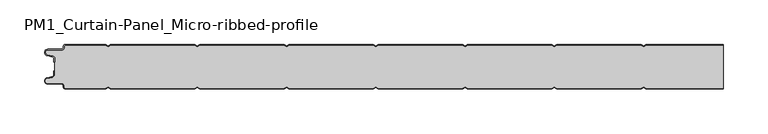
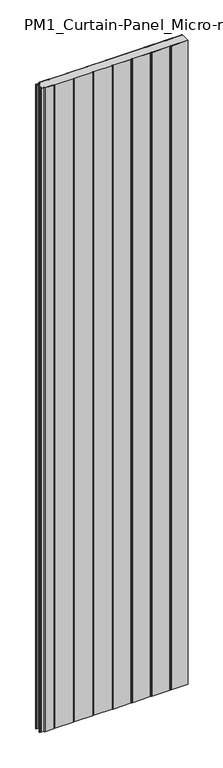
"""IFC4 building model written with IfcOpenShell, lengths in millimetres: plate geometry, PM1_Curtain-Panel_Micro-ribbed-profile : ACH_PM1_Acoustic-Sectioning-Panel_50M."""

import ifcopenshell
import ifcopenshell.guid

model = None  # the IFC model being written
_history = None  # IfcOwnerHistory: only IFC2X3 demands one
_inside = {}  # id of a spatial element -> (the spatial element, [elements in it])
_under = {}  # id of a project, library or spatial element -> (it, [spatial elements below it])
_declared = {}  # id of a project -> (the project, [libraries it declares])
_typed = {}  # id of a type object -> (the type object, [elements of that type])
_made_of = {}  # id of a material, layer set ... -> (it, [elements and type objects made of it])


def new_model(schema):
    """Start an empty IFC model of exactly this schema.

    Asked for "IFC4X3", IfcOpenShell would pick the latest addendum, in which some entities
    have other attributes; the version numbers below select the first issue.
    IFC2X3 requires an IfcOwnerHistory on every rooted entity: one is made here for all.
    """
    global model, _history
    if schema == "IFC4X3":
        model = ifcopenshell.file(schema_version=(4, 3, 0, 0))
    else:
        model = ifcopenshell.file(schema=schema)
    _inside.clear()
    _under.clear()
    _declared.clear()
    _typed.clear()
    _made_of.clear()
    _history = None
    if model.schema == "IFC2X3":
        org = make("IfcOrganization", Name="unknown")
        user = make(
            "IfcPersonAndOrganization",
            ThePerson=make("IfcPerson", FamilyName="unknown"),
            TheOrganization=org,
        )
        app = make(
            "IfcApplication",
            ApplicationDeveloper=org,
            Version="unknown",
            ApplicationFullName="unknown",
            ApplicationIdentifier="unknown",
        )
        _history = make(
            "IfcOwnerHistory",
            OwningUser=user,
            OwningApplication=app,
            ChangeAction="ADDED",
            CreationDate=0,
        )
    return model


def make(cls, **values):
    """One entity of the class cls with the attributes given. An attribute that is None is left unset."""
    return model.create_entity(
        cls, **{name: value for name, value in values.items() if value is not None}
    )


def rooted(cls, **values):
    """An entity with a GlobalId (a new one), such as an element, a storey or a relation."""
    return make(cls, GlobalId=ifcopenshell.guid.new(), OwnerHistory=_history, **values)


def si_unit(unit_type, name, prefix=None):
    """IfcSIUnit, for example si_unit("LENGTHUNIT", "METRE", prefix="MILLI")."""
    return make("IfcSIUnit", UnitType=unit_type, Prefix=prefix, Name=name)


def assignment(units):
    """IfcUnitAssignment: the units of a project."""
    return None if units is None else make("IfcUnitAssignment", Units=units)


def point(xyz):
    """IfcCartesianPoint."""
    return None if xyz is None else make("IfcCartesianPoint", Coordinates=xyz)


def direction(xyz):
    """IfcDirection."""
    return None if xyz is None else make("IfcDirection", DirectionRatios=xyz)


def frame(location, z_axis=None, x_axis=None):
    """IfcAxis2Placement3D, a coordinate frame: its origin and axes. An axis left out is left unset."""
    return make(
        "IfcAxis2Placement3D",
        Location=point(location),
        Axis=direction(z_axis),
        RefDirection=direction(x_axis),
    )


def frame_2d(location, x_axis=None):
    """IfcAxis2Placement2D, a coordinate frame in the plane: its origin and x axis."""
    return make(
        "IfcAxis2Placement2D", Location=point(location), RefDirection=direction(x_axis)
    )


def origin():
    """The frame at (0, 0, 0) with its axes left unset."""
    return frame((0.0, 0.0, 0.0))


def origin_with_axes():
    """The frame at (0, 0, 0) with the z axis (0, 0, 1) and the x axis (1, 0, 0) written out."""
    return frame((0.0, 0.0, 0.0), z_axis=(0.0, 0.0, 1.0), x_axis=(1.0, 0.0, 0.0))


def place(relative_to, where):
    """IfcLocalPlacement: puts the frame where relative to a parent placement (None: the world)."""
    return make(
        "IfcLocalPlacement", PlacementRelTo=relative_to, RelativePlacement=where
    )


def context(
    kind, dimensions, precision=None, world=None, true_north=None, identifier=None
):
    """IfcGeometricRepresentationContext, for example the 3D "Model" context."""
    return make(
        "IfcGeometricRepresentationContext",
        ContextIdentifier=identifier,
        ContextType=kind,
        CoordinateSpaceDimension=dimensions,
        Precision=precision,
        WorldCoordinateSystem=world,
        TrueNorth=true_north,
    )


def project(units=None, contexts=None):
    """IfcProject with its units and contexts."""
    return rooted(
        "IfcProject",
        Name="project",
        RepresentationContexts=contexts,
        UnitsInContext=assignment(units),
    )


def spatial(cls, under=None, at=None, **own):
    """A site, building, storey or space (cls), placed at a placement, below another one or the project."""
    s = rooted(cls, ObjectPlacement=at, **own)
    if under is not None:
        _under.setdefault(under.id(), (under, []))[1].append(s)
    return s


def polyline(points):
    """IfcPolyline through the points."""
    return make("IfcPolyline", Points=[point(p) for p in points])


def circle_curve(where, radius):
    """IfcCircle in the frame where."""
    return make("IfcCircle", Position=where, Radius=radius)


def trimmed(basis, trim1, trim2, sense, master):
    """IfcTrimmedCurve: the piece of a basis curve between two trims."""
    return make(
        "IfcTrimmedCurve",
        BasisCurve=basis,
        Trim1=trim1,
        Trim2=trim2,
        SenseAgreement=sense,
        MasterRepresentation=master,
    )


def segment(curve, same_sense, transition):
    """IfcCompositeCurveSegment."""
    return make(
        "IfcCompositeCurveSegment",
        Transition=transition,
        SameSense=same_sense,
        ParentCurve=curve,
    )


def composite_curve(segments, self_intersect=None):
    """IfcCompositeCurve: segments joined end to end."""
    return make("IfcCompositeCurve", Segments=segments, SelfIntersect=self_intersect)


def outline(outer, holes=None, kind="AREA"):
    """IfcArbitraryClosedProfileDef: a profile drawn as a closed curve; with holes, ...WithVoids."""
    if holes is None:
        return make("IfcArbitraryClosedProfileDef", ProfileType=kind, OuterCurve=outer)
    return make(
        "IfcArbitraryProfileDefWithVoids",
        ProfileType=kind,
        OuterCurve=outer,
        InnerCurves=holes,
    )


def extrude(swept, where, along, depth):
    """IfcExtrudedAreaSolid: the profile swept, set in the frame where, extruded along a direction by depth."""
    return make(
        "IfcExtrudedAreaSolid",
        SweptArea=swept,
        Position=where,
        ExtrudedDirection=direction(along),
        Depth=depth,
    )


def shape(context_of_items, identifier, shape_type, items):
    """IfcShapeRepresentation: the items that make up one representation, for example the "Body"."""
    return make(
        "IfcShapeRepresentation",
        ContextOfItems=context_of_items,
        RepresentationIdentifier=identifier,
        RepresentationType=shape_type,
        Items=items,
    )


def source(mapping_origin, context_of_items, identifier, shape_type, items):
    """IfcRepresentationMap: a shape defined once, which mapped items show again and again."""
    return make(
        "IfcRepresentationMap",
        MappingOrigin=mapping_origin,
        MappedRepresentation=shape(context_of_items, identifier, shape_type, items),
    )


def transform(
    local_origin,
    x_axis=None,
    y_axis=None,
    z_axis=None,
    scale=None,
    scale2=None,
    scale3=None,
    uniform=True,
):
    """IfcCartesianTransformationOperator3D, or its non-uniform kind. x_axis, y_axis, z_axis: its Axis1, 2, 3."""
    if uniform:
        return make(
            "IfcCartesianTransformationOperator3D",
            Axis1=direction(x_axis),
            Axis2=direction(y_axis),
            LocalOrigin=point(local_origin),
            Scale=scale,
            Axis3=direction(z_axis),
        )
    return make(
        "IfcCartesianTransformationOperator3DnonUniform",
        Axis1=direction(x_axis),
        Axis2=direction(y_axis),
        LocalOrigin=point(local_origin),
        Scale=scale,
        Axis3=direction(z_axis),
        Scale2=scale2,
        Scale3=scale3,
    )


def mapped(mapping_source, mapping_target):
    """IfcMappedItem: shows the shape of a source again, moved by a transform."""
    return make(
        "IfcMappedItem", MappingSource=mapping_source, MappingTarget=mapping_target
    )


def made_of(thing, what):
    """Note that an element or type object is made of a material, layer set ...; save() writes the relation."""
    if what is not None:
        _made_of.setdefault(what.id(), (what, []))[1].append(thing)
    return thing


def element(
    cls,
    number,
    at=None,
    inside=None,
    cuts=None,
    type_object=None,
    material=None,
    context=None,
    identifier="Body",
    shape_type=None,
    held_by="IfcProductDefinitionShape",
    body=None,
    shapes=None,
    **own,
):
    """One element of the class cls, such as IfcWall. Its Tag is "e" and its number.

    at: its placement. inside: the storey or other place that contains it. cuts: it is an
    opening in that element (IfcRelVoidsElement). A single representation is given by context,
    identifier, shape_type and body (its items); several are given by shapes. held_by: the class
    of the entity that holds the representations. save() writes the other relations.
    """
    e = rooted(cls, Tag="e%d" % number, ObjectPlacement=at, **own)
    if body is not None:
        shapes = [shape(context, identifier, shape_type, body)]
    if shapes is not None:
        e.Representation = make(held_by, Representations=shapes)
    if inside is not None:
        _inside.setdefault(inside.id(), (inside, []))[1].append(e)
    if cuts is not None:
        rooted(
            "IfcRelVoidsElement", RelatingBuildingElement=cuts, RelatedOpeningElement=e
        )
    if type_object is not None:
        _typed.setdefault(type_object.id(), (type_object, []))[1].append(e)
    return made_of(e, material)


def aggregate(whole, parts):
    """IfcRelAggregates: a whole, such as a stair, and the parts it consists of."""
    return rooted("IfcRelAggregates", RelatingObject=whole, RelatedObjects=parts)


def save(model, path):
    """Write the relations noted so far, then the file.

    IfcRelAggregates (storeys below a building ...), IfcRelContainedInSpatialStructure (elements
    in a storey), IfcRelDefinesByType, IfcRelAssociatesMaterial and IfcRelDeclares: one each for
    every whole, place, type object, material and project.
    """
    for whole, parts in _under.values():
        aggregate(whole, parts)
    for where, things in _inside.values():
        rooted(
            "IfcRelContainedInSpatialStructure",
            RelatedElements=things,
            RelatingStructure=where,
        )
    for kind, things in _typed.values():
        rooted("IfcRelDefinesByType", RelatedObjects=things, RelatingType=kind)
    for what, things in _made_of.values():
        rooted("IfcRelAssociatesMaterial", RelatedObjects=things, RelatingMaterial=what)
    for by, libraries in _declared.values():
        rooted("IfcRelDeclares", RelatingContext=by, RelatedDefinitions=libraries)
    model.write(path)


def pm1_curtain_panel_micro_ribbed_profile_fbef5924(model_context):
    return source(origin(), model_context, "Body", "SweptSolid", [
        extrude(outline(composite_curve([segment(trimmed(circle_curve(frame_2d((-377.0119739, -15.878557)), 2.0), [point((-375.0119739, -15.878557))], [point((-376.5620718, -13.9298169))], True, "CARTESIAN"), True, "CONTINUOUS"), segment(polyline([(-376.5620718, -13.9298169), (-382.7217978, -12.507732)]), True, "CONTINUOUS"), segment(trimmed(circle_curve(frame_2d((-381.9119739, -9.0)), 3.6), [point((-382.7217978, -12.507732))], [point((-381.9119739, -5.4))], False, "CARTESIAN"), True, "CONTINUOUS"), segment(polyline([(-381.9119739, -5.4), (-366.4119739, -5.4)]), True, "CONTINUOUS"), segment(trimmed(circle_curve(frame_2d((-366.4119739, -3.4)), 2.0), [point((-366.4119739, -5.4))], [point((-364.4119739, -3.4))], True, "CARTESIAN"), True, "CONTINUOUS"), segment(polyline([(-364.4119739, -3.4), (-364.4119739, -2.0)]), True, "CONTINUOUS"), segment(trimmed(circle_curve(frame_2d((-362.4119739, -2.0)), 2.0), [point((-364.4119739, -2.0))], [point((-362.4119739, 0.0))], False, "CARTESIAN"), True, "CONTINUOUS"), segment(polyline([(-362.4119739, 0.0), (-317.1119734, 0.0), (-314.4119739, -1.5588455), (-311.7119745, 0.0), (-217.1119734, 0.0), (-214.4119739, -1.5588455), (-211.7119745, 0.0), (-117.1119734, 0.0), (-114.4119739, -1.5588455), (-111.7119745, 0.0), (-17.1119734, 0.0), (-14.4119739, -1.5588455), (-11.7119745, 0.0), (82.8880266, 0.0), (85.5880261, -1.5588455), (88.2880255, 0.0), (182.8880266, 0.0), (185.5880261, -1.5588455), (188.2880255, 0.0), (282.8880266, 0.0), (285.5880261, -1.5588455), (288.2880255, 0.0), (375.0119739, 0.0), (375.0119739, -0.8), (288.5023849, -0.8), (285.5880261, -2.482606), (282.6736672, -0.8), (188.5023849, -0.8), (185.5880261, -2.482606), (182.6736672, -0.8), (88.5023849, -0.8), (85.5880261, -2.482606), (82.6736672, -0.8), (-11.4976151, -0.8), (-14.4119739, -2.482606), (-17.3263328, -0.8), (-111.4976151, -0.8), (-114.4119739, -2.482606), (-117.3263328, -0.8), (-211.4976151, -0.8), (-214.4119739, -2.482606), (-217.3263328, -0.8), (-311.4976151, -0.8), (-314.4119739, -2.482606), (-317.3263328, -0.8), (-362.4119739, -0.8)]), True, "CONTINUOUS"), segment(trimmed(circle_curve(frame_2d((-362.4119739, -2.0)), 1.2), [point((-362.4119739, -0.8))], [point((-363.6119739, -2.0))], True, "CARTESIAN"), True, "CONTINUOUS"), segment(polyline([(-363.6119739, -2.0), (-363.6119739, -3.4)]), True, "CONTINUOUS"), segment(trimmed(circle_curve(frame_2d((-366.4119739, -3.4)), 2.8), [point((-363.6119739, -3.4))], [point((-366.4119739, -6.2))], False, "CARTESIAN"), True, "CONTINUOUS"), segment(polyline([(-366.4119739, -6.2), (-381.9119739, -6.2)]), True, "CONTINUOUS"), segment(trimmed(circle_curve(frame_2d((-381.9119739, -9.0)), 2.8), [point((-381.9119739, -6.2))], [point((-382.541837, -11.7282362))], True, "CARTESIAN"), True, "CONTINUOUS"), segment(polyline([(-382.541837, -11.7282362), (-376.3821109, -13.150321)]), True, "CONTINUOUS"), segment(trimmed(circle_curve(frame_2d((-377.0119739, -15.878557)), 2.8), [point((-376.3821109, -13.150321))], [point((-374.2119739, -15.878557))], False, "CARTESIAN"), True, "CONTINUOUS"), segment(polyline([(-374.2119739, -15.878557), (-374.2119739, -20.0), (-375.0119739, -20.0), (-375.0119739, -15.878557)]), True, "CONTINUOUS")], self_intersect=False)), origin_with_axes(), (0.0, 0.0, 1.0), 3500.0),
        extrude(outline(composite_curve([segment(polyline([(-374.2119739, -34.1214426), (-374.2119739, -15.8785573)]), True, "CONTINUOUS"), segment(trimmed(circle_curve(frame_2d((-377.0119739, -15.8785573)), 2.8), [point((-374.2119739, -15.8785573))], [point((-376.3821109, -13.1503212))], True, "CARTESIAN"), True, "CONTINUOUS"), segment(polyline([(-376.3821109, -13.1503212), (-382.541837, -11.7282362)]), True, "CONTINUOUS"), segment(trimmed(circle_curve(frame_2d((-381.911974, -9.0)), 2.8), [point((-382.541837, -11.7282362))], [point((-381.911974, -6.2))], False, "CARTESIAN"), True, "CONTINUOUS"), segment(polyline([(-381.911974, -6.2), (-366.411974, -6.2)]), True, "CONTINUOUS"), segment(trimmed(circle_curve(frame_2d((-366.411974, -3.4)), 2.8), [point((-366.411974, -6.2))], [point((-363.611974, -3.4))], True, "CARTESIAN"), True, "CONTINUOUS"), segment(polyline([(-363.611974, -3.4), (-363.611974, -2.0)]), True, "CONTINUOUS"), segment(trimmed(circle_curve(frame_2d((-362.411974, -2.0)), 1.2), [point((-363.611974, -2.0))], [point((-362.411974, -0.8))], False, "CARTESIAN"), True, "CONTINUOUS"), segment(polyline([(-362.411974, -0.8), (-317.3263329, -0.8), (-314.411974, -2.482606), (-311.4976152, -0.8), (-217.3263329, -0.8), (-214.411974, -2.482606), (-211.4976152, -0.8), (-117.3263329, -0.8), (-114.411974, -2.482606), (-111.4976152, -0.8), (-17.3263329, -0.8), (-14.411974, -2.482606), (-11.4976152, -0.8), (82.6736671, -0.8), (85.588026, -2.482606), (88.5023848, -0.8), (182.6736671, -0.8), (185.588026, -2.482606), (188.5023848, -0.8), (282.6736671, -0.8), (285.588026, -2.482606), (288.5023848, -0.8), (375.0119739, -0.8), (375.0119739, -49.2), (288.5023848, -49.2), (285.588026, -47.517394), (282.6736671, -49.2), (188.5023848, -49.2), (185.588026, -47.517394), (182.6736671, -49.2), (88.5023848, -49.2), (85.588026, -47.517394), (82.6736671, -49.2), (-11.4976152, -49.2), (-14.411974, -47.517394), (-17.3263329, -49.2), (-111.4976152, -49.2), (-114.411974, -47.517394), (-117.3263329, -49.2), (-211.4976152, -49.2), (-214.411974, -47.517394), (-217.3263329, -49.2), (-311.4976152, -49.2), (-314.411974, -47.517394), (-317.3263329, -49.2), (-362.411974, -49.2)]), True, "CONTINUOUS"), segment(trimmed(circle_curve(frame_2d((-362.411974, -48.0)), 1.2), [point((-362.411974, -49.2))], [point((-363.611974, -48.0))], False, "CARTESIAN"), True, "CONTINUOUS"), segment(polyline([(-363.611974, -48.0), (-363.611974, -46.6)]), True, "CONTINUOUS"), segment(trimmed(circle_curve(frame_2d((-366.411974, -46.6)), 2.8), [point((-363.611974, -46.6))], [point((-366.411974, -43.8))], True, "CARTESIAN"), True, "CONTINUOUS"), segment(polyline([(-366.411974, -43.8), (-381.911974, -43.8)]), True, "CONTINUOUS"), segment(trimmed(circle_curve(frame_2d((-381.911974, -41.0)), 2.8), [point((-381.911974, -43.8))], [point((-382.541837, -38.2717638))], False, "CARTESIAN"), True, "CONTINUOUS"), segment(polyline([(-382.541837, -38.2717638), (-376.3821109, -36.8496788)]), True, "CONTINUOUS"), segment(trimmed(circle_curve(frame_2d((-377.0119739, -34.1214426)), 2.8), [point((-376.3821109, -36.8496788))], [point((-374.2119739, -34.1214426))], True, "CARTESIAN"), True, "CONTINUOUS")], self_intersect=False)), origin_with_axes(), (0.0, 0.0, 1.0), 3500.0),
        extrude(outline(composite_curve([segment(polyline([(-375.0119739, -34.121443), (-375.0119739, -30.0), (-374.2119739, -30.0), (-374.2119739, -34.121443)]), True, "CONTINUOUS"), segment(trimmed(circle_curve(frame_2d((-377.0119739, -34.121443)), 2.8), [point((-374.2119739, -34.121443))], [point((-376.3821109, -36.8496792))], False, "CARTESIAN"), True, "CONTINUOUS"), segment(polyline([(-376.3821109, -36.8496792), (-382.5418369, -38.271764)]), True, "CONTINUOUS"), segment(trimmed(circle_curve(frame_2d((-381.9119739, -41.0)), 2.8), [point((-382.5418369, -38.271764))], [point((-381.9119739, -43.8))], True, "CARTESIAN"), True, "CONTINUOUS"), segment(polyline([(-381.9119739, -43.8), (-366.4119739, -43.8)]), True, "CONTINUOUS"), segment(trimmed(circle_curve(frame_2d((-366.4119739, -46.6)), 2.8), [point((-366.4119739, -43.8))], [point((-363.6119739, -46.6))], False, "CARTESIAN"), True, "CONTINUOUS"), segment(polyline([(-363.6119739, -46.6), (-363.6119739, -48.0)]), True, "CONTINUOUS"), segment(trimmed(circle_curve(frame_2d((-362.4119739, -48.0)), 1.2), [point((-363.6119739, -48.0))], [point((-362.4119739, -49.2))], True, "CARTESIAN"), True, "CONTINUOUS"), segment(polyline([(-362.4119739, -49.2), (-317.3263328, -49.2), (-314.4119739, -47.517394), (-311.4976151, -49.2), (-217.3263328, -49.2), (-214.4119739, -47.517394), (-211.4976151, -49.2), (-117.3263328, -49.2), (-114.4119739, -47.517394), (-111.4976151, -49.2), (-17.3263328, -49.2), (-14.4119739, -47.517394), (-11.4976151, -49.2), (82.6736672, -49.2), (85.5880261, -47.517394), (88.5023849, -49.2), (182.6736672, -49.2), (185.5880261, -47.517394), (188.5023849, -49.2), (282.6736672, -49.2), (285.5880261, -47.517394), (288.5023849, -49.2), (375.0119739, -49.2), (375.0119739, -50.0), (288.2880255, -50.0), (285.5880261, -48.4411545), (282.8880266, -50.0), (188.2880255, -50.0), (185.5880261, -48.4411545), (182.8880266, -50.0), (88.2880255, -50.0), (85.5880261, -48.4411545), (82.8880266, -50.0), (-11.7119745, -50.0), (-14.4119739, -48.4411545), (-17.1119734, -50.0), (-111.7119745, -50.0), (-114.4119739, -48.4411545), (-117.1119734, -50.0), (-211.7119745, -50.0), (-214.4119739, -48.4411545), (-217.1119734, -50.0), (-311.7119745, -50.0), (-314.4119739, -48.4411545), (-317.1119734, -50.0), (-362.4119739, -50.0)]), True, "CONTINUOUS"), segment(trimmed(circle_curve(frame_2d((-362.4119739, -48.0)), 2.0), [point((-362.4119739, -50.0))], [point((-364.4119739, -48.0))], False, "CARTESIAN"), True, "CONTINUOUS"), segment(polyline([(-364.4119739, -48.0), (-364.4119739, -46.6)]), True, "CONTINUOUS"), segment(trimmed(circle_curve(frame_2d((-366.4119739, -46.6)), 2.0), [point((-364.4119739, -46.6))], [point((-366.4119739, -44.6))], True, "CARTESIAN"), True, "CONTINUOUS"), segment(polyline([(-366.4119739, -44.6), (-381.9119739, -44.6)]), True, "CONTINUOUS"), segment(trimmed(circle_curve(frame_2d((-381.9119739, -41.0)), 3.6), [point((-381.9119739, -44.6))], [point((-382.7217979, -37.4922678))], False, "CARTESIAN"), True, "CONTINUOUS"), segment(polyline([(-382.7217979, -37.4922678), (-376.5620718, -36.070183)]), True, "CONTINUOUS"), segment(trimmed(circle_curve(frame_2d((-377.0119739, -34.121443)), 2.0), [point((-376.5620718, -36.070183))], [point((-375.0119739, -34.121443))], True, "CARTESIAN"), True, "CONTINUOUS")], self_intersect=False)), origin_with_axes(), (0.0, 0.0, 1.0), 3500.0),
    ])


if __name__ == "__main__":
    model = new_model("IFC4")
    model_context = context("Model", 3, world=origin())
    ifc_project = project(units=[si_unit("LENGTHUNIT", "METRE", prefix="MILLI")], contexts=[model_context])
    site = spatial("IfcSite", under=ifc_project)
    building = spatial("IfcBuilding", under=site)
    placement = place(None, origin())
    pm1_curtain_panel_micro_ribbed_profile_shape = pm1_curtain_panel_micro_ribbed_profile_fbef5924(model_context)
    element("IfcPlate", 1, ObjectType="PM1_Curtain-Panel_Micro-ribbed-profile : ACH_PM1_Acoustic-Sectioning-Panel_50M", at=placement, inside=building, context=model_context, shape_type="MappedRepresentation", body=[
        mapped(pm1_curtain_panel_micro_ribbed_profile_shape, transform((0.0, 0.0, 0.0), x_axis=(1.0, 0.0, 0.0), y_axis=(0.0, 1.0, 0.0), z_axis=(0.0, 0.0, 1.0))),
    ])
    save(model, "model.ifc")
